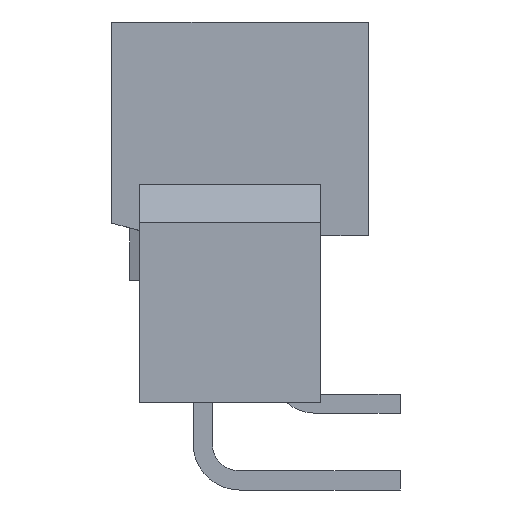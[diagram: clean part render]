
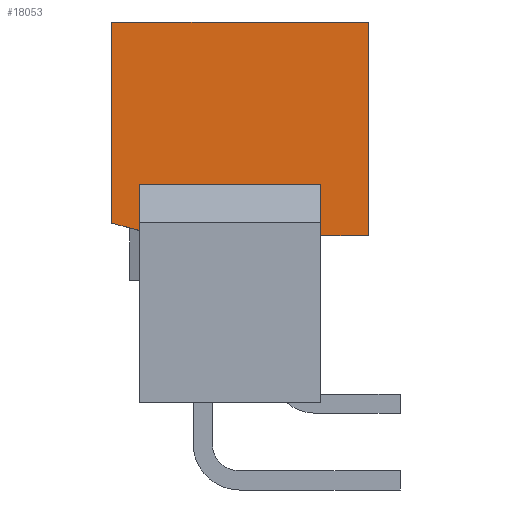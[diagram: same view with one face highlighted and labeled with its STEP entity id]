
A CAD part, left-side view. The second image highlights one B-rep face of the part: STEP entity #18053.
In plain terms, the highlighted planar face has unit normal (-1, 0, 0).
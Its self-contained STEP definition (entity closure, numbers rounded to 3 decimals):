
#72=DIRECTION('',(0.,0.,1.));
#73=VECTOR('',#72,1.71);
#74=CARTESIAN_POINT('',(-43.88,-2.665,-7.09));
#75=LINE('',#74,#73);
#76=DIRECTION('',(0.,-1.,0.));
#77=VECTOR('',#76,6.);
#78=CARTESIAN_POINT('',(-43.88,3.335,-5.38));
#79=LINE('',#78,#77);
#80=DIRECTION('',(0.,0.,1.));
#81=VECTOR('',#80,1.53);
#82=CARTESIAN_POINT('',(-43.88,3.335,-6.91));
#83=LINE('',#82,#81);
#84=DIRECTION('',(0.,0.966,0.259));
#85=VECTOR('',#84,0.952);
#86=CARTESIAN_POINT('',(-43.88,3.335,-6.91));
#87=LINE('',#86,#85);
#88=DIRECTION('',(0.,0.,1.));
#89=VECTOR('',#88,6.664);
#90=CARTESIAN_POINT('',(-43.88,4.255,-6.664));
#91=LINE('',#90,#89);
#92=DIRECTION('',(0.,-1.,0.));
#93=VECTOR('',#92,8.51);
#94=CARTESIAN_POINT('',(-43.88,4.255,0.));
#95=LINE('',#94,#93);
#96=DIRECTION('',(0.,0.,-1.));
#97=VECTOR('',#96,7.09);
#98=CARTESIAN_POINT('',(-43.88,-4.255,0.));
#99=LINE('',#98,#97);
#100=DIRECTION('',(0.,1.,0.));
#101=VECTOR('',#100,1.59);
#102=CARTESIAN_POINT('',(-43.88,-4.255,-7.09));
#103=LINE('',#102,#101);
#13626=CARTESIAN_POINT('',(-43.88,4.255,0.));
#13627=CARTESIAN_POINT('',(-43.88,-4.255,0.));
#13628=VERTEX_POINT('',#13626);
#13629=VERTEX_POINT('',#13627);
#13630=CARTESIAN_POINT('',(-43.88,-4.255,-7.09));
#13631=VERTEX_POINT('',#13630);
#13632=CARTESIAN_POINT('',(-43.88,4.255,-6.664));
#13633=VERTEX_POINT('',#13632);
#13668=CARTESIAN_POINT('',(-43.88,-2.665,-7.09));
#13669=CARTESIAN_POINT('',(-43.88,-2.665,-5.38));
#13670=VERTEX_POINT('',#13668);
#13671=VERTEX_POINT('',#13669);
#13672=CARTESIAN_POINT('',(-43.88,3.335,-6.91));
#13673=CARTESIAN_POINT('',(-43.88,3.335,-5.38));
#13674=VERTEX_POINT('',#13672);
#13675=VERTEX_POINT('',#13673);
#18030=CARTESIAN_POINT('',(-43.88,0.,0.));
#18031=DIRECTION('',(1.,0.,0.));
#18032=DIRECTION('',(0.,-1.,0.));
#18033=AXIS2_PLACEMENT_3D('',#18030,#18031,#18032);
#18034=PLANE('',#18033);
#18036=ORIENTED_EDGE('',*,*,#18035,.T.);
#18038=ORIENTED_EDGE('',*,*,#18037,.F.);
#18040=ORIENTED_EDGE('',*,*,#18039,.F.);
#18042=ORIENTED_EDGE('',*,*,#18041,.T.);
#18044=ORIENTED_EDGE('',*,*,#18043,.T.);
#18046=ORIENTED_EDGE('',*,*,#18045,.T.);
#18048=ORIENTED_EDGE('',*,*,#18047,.T.);
#18050=ORIENTED_EDGE('',*,*,#18049,.T.);
#18051=EDGE_LOOP('',(#18036,#18038,#18040,#18042,#18044,#18046,#18048,#18050));
#18052=FACE_OUTER_BOUND('',#18051,.F.);
#18053=ADVANCED_FACE('',(#18052),#18034,.F.);
#18035=EDGE_CURVE('',#13670,#13671,#75,.T.);
#18037=EDGE_CURVE('',#13675,#13671,#79,.T.);
#18039=EDGE_CURVE('',#13674,#13675,#83,.T.);
#18041=EDGE_CURVE('',#13674,#13633,#87,.T.);
#18043=EDGE_CURVE('',#13633,#13628,#91,.T.);
#18045=EDGE_CURVE('',#13628,#13629,#95,.T.);
#18047=EDGE_CURVE('',#13629,#13631,#99,.T.);
#18049=EDGE_CURVE('',#13631,#13670,#103,.T.);
